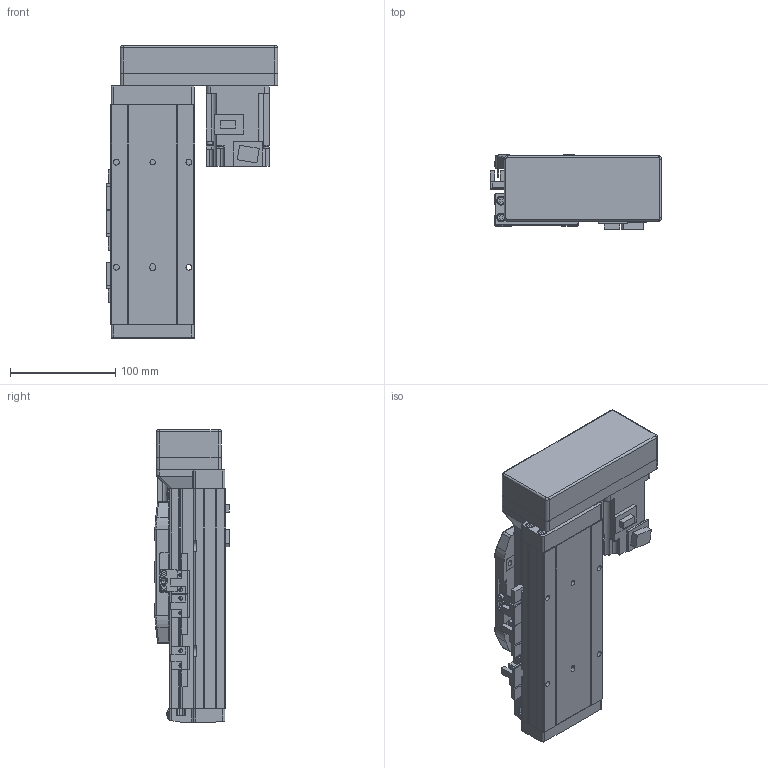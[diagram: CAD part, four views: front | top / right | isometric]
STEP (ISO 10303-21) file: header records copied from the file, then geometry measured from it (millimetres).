
FILE_DESCRIPTION (( 'STEP AP214' ), '1' );
FILE_NAME ('GSH8-50-BL-M20-1.step', '2025-01-07T06:05:52', ( '' ), ( '' ), 'SwSTEP 2.0', 'SolidWorks 2012', '' );
FILE_SCHEMA (( 'AUTOMOTIVE_DESIGN' ));
Length unit declared in the file: millimetre
Products named in the file (5): GSH8-50-BL-M20-1; HG-KR23_200W_Motor; GSH8-GY-004; GSH8-BL-011-50-M20; GSH8-BL-008
Assembly tree (4 placements, depth 2):
  GSH8-50-BL-M20-1
    GSH8-BL-011-50-M20
    GSH8-GY-004
    GSH8-BL-008
    HG-KR23_200W_Motor
Bounding box: 163 x 71.3 x 278.2 mm (x, y, z)
Volume: 1248088.2 mm3; surface area: 247814.1 mm2
Topology: 4 solids, 8 shells, 1070 faces, 2786 edges, 1788 vertices
Faces by surface type: plane 617, cylinder 357, torus 42, cone 26, bspline 24, sphere 4
Entity records: 42138 total; most frequent: CARTESIAN_POINT 9593, DIRECTION 5644, ORIENTED_EDGE 5556, EDGE_CURVE 2778, AXIS2_PLACEMENT_3D 1891, LINE 1862, VECTOR 1862, VERTEX_POINT 1784
